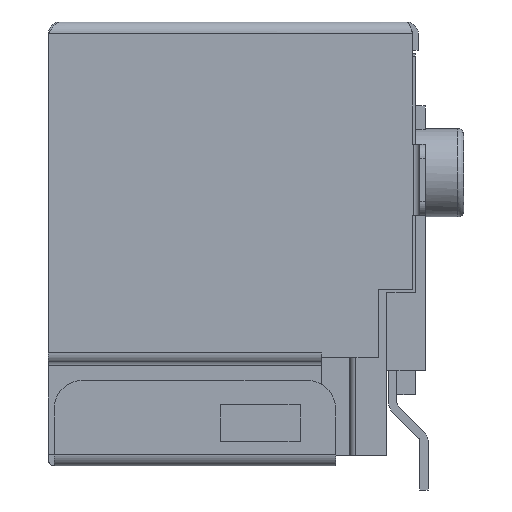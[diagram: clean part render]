
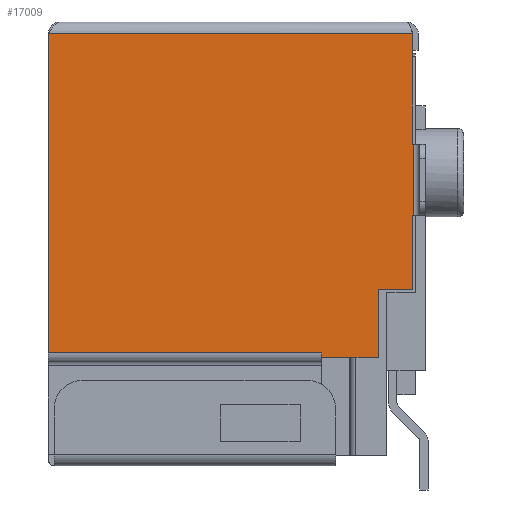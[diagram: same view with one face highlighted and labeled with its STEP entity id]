
A CAD part, left-side view. The second image highlights one B-rep face of the part: STEP entity #17009.
In plain terms, the highlighted planar face has unit normal (-1, 0, 0).
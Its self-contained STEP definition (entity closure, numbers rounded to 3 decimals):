
#13663=DIRECTION('',(0.,0.,1.));
#13664=VECTOR('',#13663,0.166);
#13665=CARTESIAN_POINT('',(-8.2,3.3,-11.6));
#13666=LINE('',#13665,#13664);
#13667=DIRECTION('',(0.,0.,1.));
#13668=VECTOR('',#13667,11.234);
#13669=CARTESIAN_POINT('',(-8.2,12.9,-11.434));
#13670=LINE('',#13669,#13668);
#13671=DIRECTION('',(0.,-1.,0.));
#13672=VECTOR('',#13671,0.05);
#13673=CARTESIAN_POINT('',(-8.2,0.1,-4.1));
#13674=LINE('',#13673,#13672);
#13675=DIRECTION('',(0.,0.,1.));
#13676=VECTOR('',#13675,2.6);
#13677=CARTESIAN_POINT('',(-8.2,0.1,-9.2));
#13678=LINE('',#13677,#13676);
#13715=DIRECTION('',(0.,-1.,0.));
#13716=VECTOR('',#13715,0.05);
#13717=CARTESIAN_POINT('',(-8.2,0.1,-6.6));
#13718=LINE('',#13717,#13716);
#13737=DIRECTION('',(0.,0.,1.));
#13738=VECTOR('',#13737,2.5);
#13739=CARTESIAN_POINT('',(-8.2,0.05,-6.6));
#13740=LINE('',#13739,#13738);
#13911=DIRECTION('',(0.,0.,1.));
#13912=VECTOR('',#13911,3.9);
#13913=CARTESIAN_POINT('',(-8.2,0.1,-4.1));
#13914=LINE('',#13913,#13912);
#13953=DIRECTION('',(0.,1.,0.));
#13954=VECTOR('',#13953,12.8);
#13955=CARTESIAN_POINT('',(-8.2,0.1,-0.2));
#13956=LINE('',#13955,#13954);
#14095=DIRECTION('',(0.,-1.,0.));
#14096=VECTOR('',#14095,2.);
#14097=CARTESIAN_POINT('',(-8.2,3.3,-11.6));
#14098=LINE('',#14097,#14096);
#14119=DIRECTION('',(0.,0.,1.));
#14120=VECTOR('',#14119,2.4);
#14121=CARTESIAN_POINT('',(-8.2,1.3,-11.6));
#14122=LINE('',#14121,#14120);
#14127=DIRECTION('',(0.,-1.,0.));
#14128=VECTOR('',#14127,1.2);
#14129=CARTESIAN_POINT('',(-8.2,1.3,-9.2));
#14130=LINE('',#14129,#14128);
#14175=DIRECTION('',(0.,-1.,0.));
#14176=VECTOR('',#14175,9.6);
#14177=CARTESIAN_POINT('',(-8.2,12.9,-11.434));
#14178=LINE('',#14177,#14176);
#15260=CARTESIAN_POINT('',(-8.2,12.9,-0.2));
#15262=VERTEX_POINT('',#15260);
#15264=CARTESIAN_POINT('',(-8.2,12.9,-11.434));
#15265=VERTEX_POINT('',#15264);
#15284=CARTESIAN_POINT('',(-8.2,0.1,-9.2));
#15285=CARTESIAN_POINT('',(-8.2,0.1,-6.6));
#15286=VERTEX_POINT('',#15284);
#15287=VERTEX_POINT('',#15285);
#15288=CARTESIAN_POINT('',(-8.2,1.3,-9.2));
#15289=VERTEX_POINT('',#15288);
#15290=CARTESIAN_POINT('',(-8.2,1.3,-11.6));
#15291=VERTEX_POINT('',#15290);
#15292=CARTESIAN_POINT('',(-8.2,3.3,-11.6));
#15293=VERTEX_POINT('',#15292);
#15294=CARTESIAN_POINT('',(-8.2,3.3,-11.434));
#15295=VERTEX_POINT('',#15294);
#15296=CARTESIAN_POINT('',(-8.2,0.1,-0.2));
#15297=VERTEX_POINT('',#15296);
#15298=CARTESIAN_POINT('',(-8.2,0.1,-4.1));
#15299=VERTEX_POINT('',#15298);
#15300=CARTESIAN_POINT('',(-8.2,0.05,-4.1));
#15301=VERTEX_POINT('',#15300);
#15302=CARTESIAN_POINT('',(-8.2,0.05,-6.6));
#15303=VERTEX_POINT('',#15302);
#16979=CARTESIAN_POINT('',(-8.2,6.475,-5.9));
#16980=DIRECTION('',(1.,0.,0.));
#16981=DIRECTION('',(0.,0.,-1.));
#16982=AXIS2_PLACEMENT_3D('',#16979,#16980,#16981);
#16983=PLANE('',#16982);
#16985=ORIENTED_EDGE('',*,*,#16984,.F.);
#16987=ORIENTED_EDGE('',*,*,#16986,.F.);
#16989=ORIENTED_EDGE('',*,*,#16988,.F.);
#16991=ORIENTED_EDGE('',*,*,#16990,.F.);
#16993=ORIENTED_EDGE('',*,*,#16992,.T.);
#16995=ORIENTED_EDGE('',*,*,#16994,.F.);
#16996=ORIENTED_EDGE('',*,*,#16953,.T.);
#16998=ORIENTED_EDGE('',*,*,#16997,.F.);
#17000=ORIENTED_EDGE('',*,*,#16999,.F.);
#17002=ORIENTED_EDGE('',*,*,#17001,.T.);
#17004=ORIENTED_EDGE('',*,*,#17003,.F.);
#17006=ORIENTED_EDGE('',*,*,#17005,.F.);
#17007=EDGE_LOOP('',(#16985,#16987,#16989,#16991,#16993,#16995,#16996,#16998,
#17000,#17002,#17004,#17006));
#17008=FACE_OUTER_BOUND('',#17007,.F.);
#17009=ADVANCED_FACE('',(#17008),#16983,.F.);
#16953=EDGE_CURVE('',#15265,#15262,#13670,.T.);
#16984=EDGE_CURVE('',#15286,#15287,#13678,.T.);
#16986=EDGE_CURVE('',#15289,#15286,#14130,.T.);
#16988=EDGE_CURVE('',#15291,#15289,#14122,.T.);
#16990=EDGE_CURVE('',#15293,#15291,#14098,.T.);
#16992=EDGE_CURVE('',#15293,#15295,#13666,.T.);
#16994=EDGE_CURVE('',#15265,#15295,#14178,.T.);
#16997=EDGE_CURVE('',#15297,#15262,#13956,.T.);
#16999=EDGE_CURVE('',#15299,#15297,#13914,.T.);
#17001=EDGE_CURVE('',#15299,#15301,#13674,.T.);
#17003=EDGE_CURVE('',#15303,#15301,#13740,.T.);
#17005=EDGE_CURVE('',#15287,#15303,#13718,.T.);
